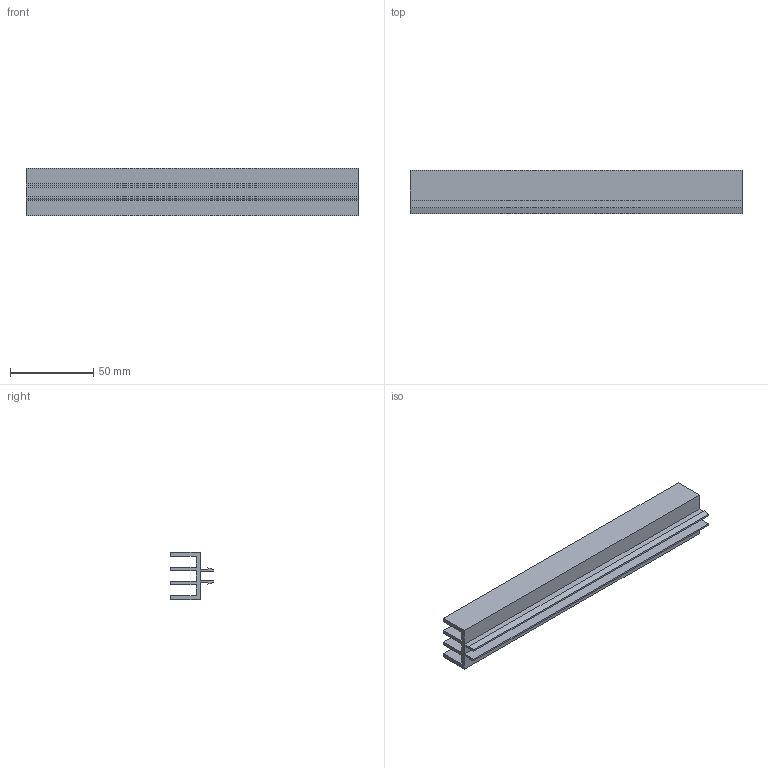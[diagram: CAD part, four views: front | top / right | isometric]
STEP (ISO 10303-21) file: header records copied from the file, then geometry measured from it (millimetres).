
FILE_DESCRIPTION (( 'STEP AP214' ), '1' );
FILE_NAME ('1.6025 Paneeliliuku 3.STEP', '2025-09-17T10:21:53', ( '' ), ( '' ), 'SwSTEP 2.0', 'SolidWorks 2025', '' );
FILE_SCHEMA (( 'AUTOMOTIVE_DESIGN' ));
Length unit declared in the file: millimetre
Products named in the file (1): 1.6025 Paneeliliuku 3
Bounding box: 200 x 26 x 28.5 mm (x, y, z)
Volume: 46050 mm3; surface area: 44516.5 mm2
Topology: 1 solids, 1 shells, 30 faces, 84 edges, 56 vertices
Faces by surface type: plane 30
Entity records: 1301 total; most frequent: CARTESIAN_POINT 171, ORIENTED_EDGE 168, DIRECTION 146, VECTOR 84, LINE 84, EDGE_CURVE 84, VERTEX_POINT 56, UNCERTAINTY_MEASURE_WITH_UNIT 32
